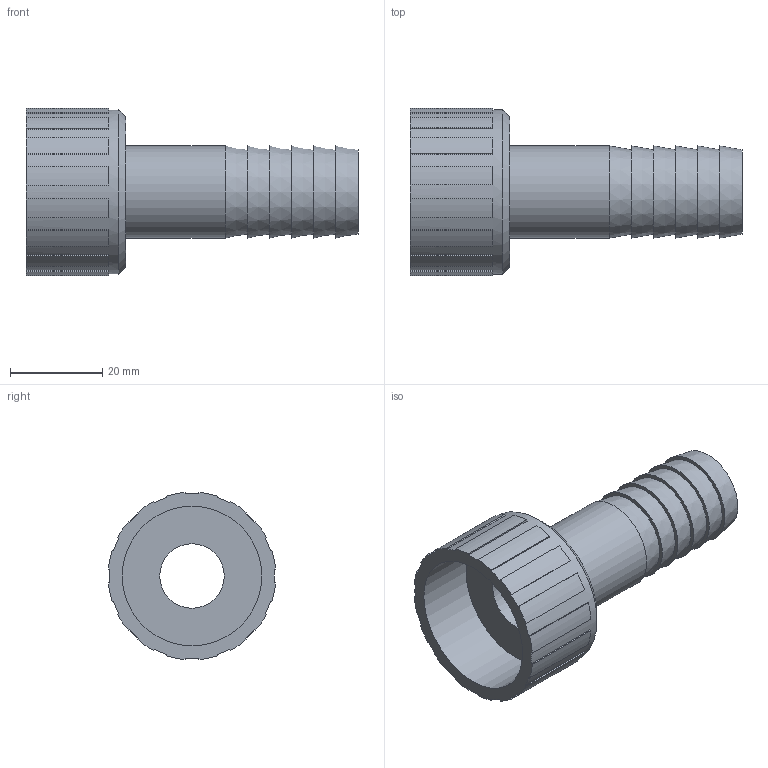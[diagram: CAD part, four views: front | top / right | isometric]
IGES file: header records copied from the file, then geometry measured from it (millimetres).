
Global section: file name: 053602020010.ipt; native system: Autodesk Inventor 2015; preprocessor: unknown; author: KIM; date: 20171207.165540; units: millimetre
Bounding box: 72 x 36.22 x 36.22 mm (x, y, z)
Volume: 18565.2 mm3; surface area: 11406.1 mm2
Topology: 1 solids, 1 shells, 84 faces, 227 edges, 152 vertices
Faces by surface type: plane 57, cylinder 18, cone 7, revolution 2
Full cylindrical faces by diameter (mm): 20 x1, 35.743 x1
